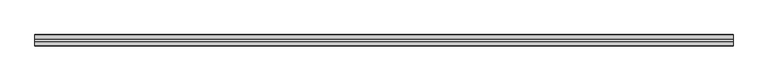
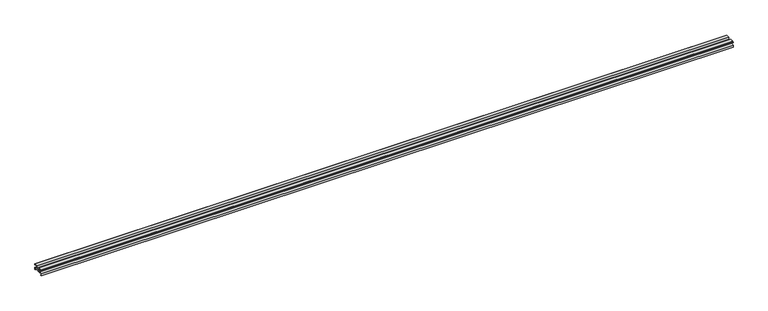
"""IFC4 building model written with IfcOpenShell, lengths in millimetres: proxy geometry, Weiku - Montante - Acoplamento vidro : Weiku - Montante - Acoplamento vidro."""

from ifc_helpers import new_model, si_unit, frame, origin, place, context, project, spatial, polyline, outline, extrude, source, transform, mapped, element, save


def generic_models_b3029641(model_context):
    return source(origin(), model_context, "Body", "SweptSolid", [
        extrude(outline(polyline([(35.405, 5.1494), (12.495, 5.1494), (12.495, 6.8004), (2.159, 6.8004), (2.159, 2.6094), (4.0216, 2.6094), (4.0216, 0.0), (-0.0014508, 0.0), (-0.0014508, 8.79), (12.954, 8.79), (12.954, 23.3104), (4.3603, 23.3104), (4.3603, 19.204), (0.0, 19.204), (0.0, 22.8024), (0.9736, 22.8024), (0.9736, 20.3894), (3.175, 20.3894), (3.175, 23.9454), (2.3735496, 23.9454), (2.3735496, 25.3), (17.4836, 25.3), (17.4836, 16.283), (15.4516, 16.283), (15.4516, 8.8), (32.4484, 8.8), (32.4484, 16.283), (30.4164, 16.283), (30.4164, 25.3), (45.5264504, 25.3), (45.5264504, 23.9454), (44.725, 23.9454), (44.725, 20.3894), (46.9264, 20.3894), (46.9264, 22.8024), (47.9, 22.8024), (47.9, 19.204), (43.5397, 19.204), (43.5397, 23.3104), (34.946, 23.3104), (34.946, 8.79), (47.9014508, 8.79), (47.9014508, 0.0), (43.8784, 0.0), (43.8784, 2.6094), (45.741, 2.6094), (45.741, 6.8004), (35.405, 6.8004), (35.405, 5.1494)])), frame((-1454.9, 0.0, 0.0), z_axis=(1.0, 0.0, 0.0), x_axis=(0.0, 1.0, 0.0)), (0.0, 0.0, 1.0), 2909.8),
    ])


if __name__ == "__main__":
    model = new_model("IFC4")
    model_context = context("Model", 3, world=origin())
    ifc_project = project(units=[si_unit("LENGTHUNIT", "METRE", prefix="MILLI")], contexts=[model_context])
    site = spatial("IfcSite", under=ifc_project)
    building = spatial("IfcBuilding", under=site)
    placement = place(None, origin())
    generic_models_shape = generic_models_b3029641(model_context)
    element("IfcBuildingElementProxy", 1, Name="Weiku - Montante - Acoplamento vidro : Weiku - Montante - Acoplamento vidro", ObjectType="Weiku - Montante - Acoplamento vidro : Weiku - Montante - Acoplamento vidro", at=placement, inside=building, context=model_context, shape_type="MappedRepresentation", body=[
        mapped(generic_models_shape, transform((0.0, 0.0, 0.0), x_axis=(1.0, 0.0, 0.0), y_axis=(0.0, 1.0, 0.0), z_axis=(0.0, 0.0, 1.0))),
    ])
    save(model, "model.ifc")
